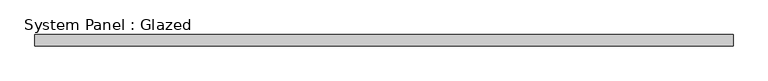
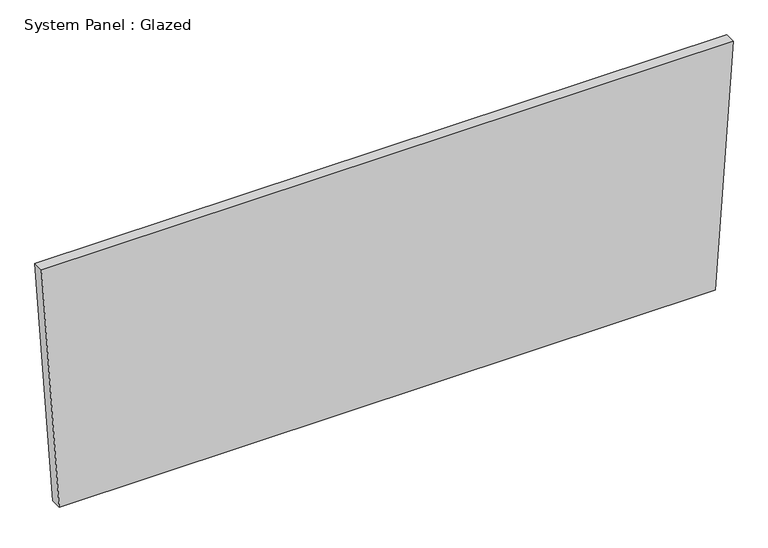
"""IFC4 building model written with IfcOpenShell, lengths in millimetres: plate geometry, System Panel : Glazed."""

from ifc_helpers import new_model, si_unit, frame, origin, place, context, project, spatial, polyline, outline, extrude, source, transform, mapped, element, save


def system_panel_glazed_18224c41(model_context):
    return source(origin(), model_context, "Body", "SweptSolid", [
        extrude(outline(polyline([(0.0, -744.1612568), (0.0, 744.1612568), (582.7548153, 784.3600783), (582.7548153, -784.3600783), (0.0, -744.1612568)])), frame((0.0, -44.45, 0.0), z_axis=(0.0, 1.0, 0.0), x_axis=(0.0, 0.0, 1.0)), (0.0, 0.0, 1.0), 25.4),
    ])


if __name__ == "__main__":
    model = new_model("IFC4")
    model_context = context("Model", 3, world=origin())
    ifc_project = project(units=[si_unit("LENGTHUNIT", "METRE", prefix="MILLI")], contexts=[model_context])
    site = spatial("IfcSite", under=ifc_project)
    building = spatial("IfcBuilding", under=site)
    placement = place(None, origin())
    system_panel_glazed_shape = system_panel_glazed_18224c41(model_context)
    element("IfcPlate", 1, ObjectType="System Panel : Glazed", at=placement, inside=building, context=model_context, shape_type="MappedRepresentation", body=[
        mapped(system_panel_glazed_shape, transform((0.0, 0.0, 0.0), x_axis=(1.0, 0.0, 0.0), y_axis=(0.0, 1.0, 0.0), z_axis=(0.0, 0.0, 1.0))),
    ])
    save(model, "model.ifc")
